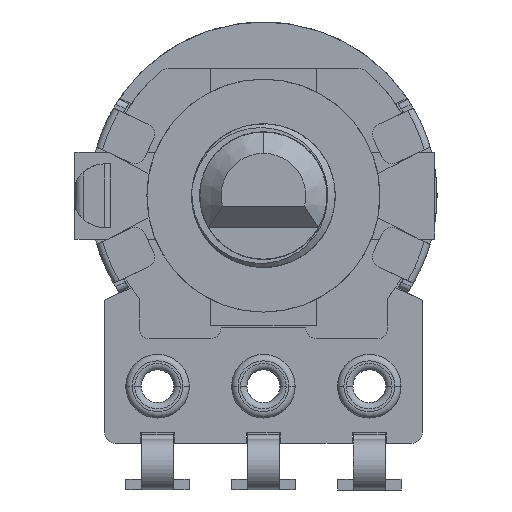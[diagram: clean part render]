
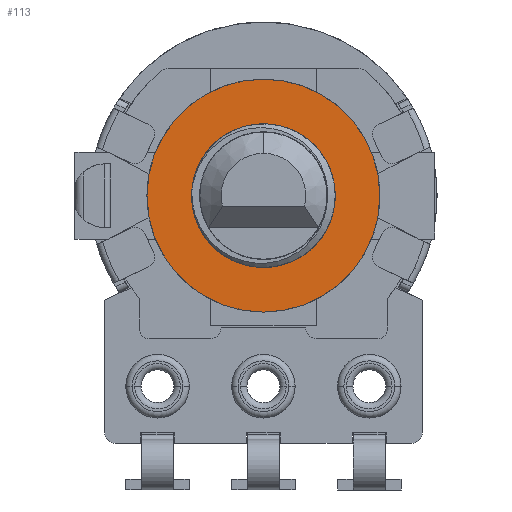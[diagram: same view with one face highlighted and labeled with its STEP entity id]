
A CAD part, front view. The second image highlights one B-rep face of the part: STEP entity #113.
In plain terms, the highlighted planar face has unit normal (0, -1, 0) as drawn and (0, 0, 1) by its records, which use the part's own axes.
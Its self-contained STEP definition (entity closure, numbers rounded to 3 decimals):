
#113 = ADVANCED_FACE ( 'NONE', ( #3345, #3351 ), #3911, .F. ) ;
#678 = ORIENTED_EDGE ( 'NONE', *, *, #1265, .F. ) ;
#679 = ORIENTED_EDGE ( 'NONE', *, *, #1377, .F. ) ;
#680 = ORIENTED_EDGE ( 'NONE', *, *, #9658, .F. ) ;
#681 = ORIENTED_EDGE ( 'NONE', *, *, #1055, .T. ) ;
#682 = ORIENTED_EDGE ( 'NONE', *, *, #9670, .F. ) ;
#1055 = EDGE_CURVE ( 'NONE', #16083, #16084, #9998, .T. ) ;
#1265 = EDGE_CURVE ( 'NONE', #15984, #15985, #10292, .T. ) ;
#1377 = EDGE_CURVE ( 'NONE', #15985, #15984, #10496, .T. ) ;
#1950 = AXIS2_PLACEMENT_3D ( 'NONE', #3910, #3919, #3920 ) ;
#2442 = EDGE_LOOP ( 'NONE', ( #678, #679 ) ) ;
#2444 = EDGE_LOOP ( 'NONE', ( #680, #681, #682 ) ) ;
#3345 = FACE_OUTER_BOUND ( 'NONE', #2442, .T. ) ;
#3351 = FACE_BOUND ( 'NONE', #2444, .T. ) ;
#3910 = CARTESIAN_POINT ( 'NONE',  ( 0., 0., 4. ) ) ;
#3911 = PLANE ( 'NONE',  #1950 ) ;
#3919 = DIRECTION ( 'NONE',  ( 0., 0., -1. ) ) ;
#3920 = DIRECTION ( 'NONE',  ( 0., -1., 0. ) ) ;
#6990 = AXIS2_PLACEMENT_3D ( 'NONE', #9010, #9011, #9012 ) ;
#7077 = AXIS2_PLACEMENT_3D ( 'NONE', #9624, #9626, #9627 ) ;
#7112 = AXIS2_PLACEMENT_3D ( 'NONE', #11068, #11070, #11071 ) ;
#9010 = CARTESIAN_POINT ( 'NONE',  ( 0., 0., 4. ) ) ;
#9011 = DIRECTION ( 'NONE',  ( 0., 0., -1. ) ) ;
#9012 = DIRECTION ( 'NONE',  ( 0., -1., 0. ) ) ;
#9624 = CARTESIAN_POINT ( 'NONE',  ( 0., 0., 4. ) ) ;
#9626 = DIRECTION ( 'NONE',  ( 0., 0., -1. ) ) ;
#9627 = DIRECTION ( 'NONE',  ( 0., -1., 0. ) ) ;
#9658 = EDGE_CURVE ( 'NONE', #16083, #15759, #14541, .T. ) ;
#9670 = EDGE_CURVE ( 'NONE', #15759, #16084, #14542, .T. ) ;
#9998 = CIRCLE ( 'NONE', #6990, 3.02 ) ;
#10292 = CIRCLE ( 'NONE', #7077, 5.5 ) ;
#10496 = CIRCLE ( 'NONE', #7112, 5.5 ) ;
#11068 = CARTESIAN_POINT ( 'NONE',  ( 0., 0., 4. ) ) ;
#11070 = DIRECTION ( 'NONE',  ( 0., 0., -1. ) ) ;
#11071 = DIRECTION ( 'NONE',  ( 0., -1., 0. ) ) ;
#11685 = CARTESIAN_POINT ( 'NONE',  ( -0.272, 3.008, 4. ) ) ;
#11689 = CARTESIAN_POINT ( 'NONE',  ( -0.481, 2.997, 4. ) ) ;
#11690 = CARTESIAN_POINT ( 'NONE',  ( -0.684, 2.965, 4. ) ) ;
#11691 = CARTESIAN_POINT ( 'NONE',  ( -1.083, 2.861, 4. ) ) ;
#11692 = CARTESIAN_POINT ( 'NONE',  ( -1.28, 2.788, 4. ) ) ;
#11693 = CARTESIAN_POINT ( 'NONE',  ( -1.652, 2.605, 4. ) ) ;
#11694 = CARTESIAN_POINT ( 'NONE',  ( -1.827, 2.496, 4. ) ) ;
#11695 = CARTESIAN_POINT ( 'NONE',  ( -2.154, 2.243, 4. ) ) ;
#11696 = CARTESIAN_POINT ( 'NONE',  ( -2.306, 2.098, 4. ) ) ;
#11697 = CARTESIAN_POINT ( 'NONE',  ( -2.709, 1.629, 4. ) ) ;
#11698 = CARTESIAN_POINT ( 'NONE',  ( -2.915, 1.258, 4. ) ) ;
#11699 = CARTESIAN_POINT ( 'NONE',  ( -3.107, 0.669, 4. ) ) ;
#11700 = CARTESIAN_POINT ( 'NONE',  ( -3.152, 0.464, 4. ) ) ;
#11701 = CARTESIAN_POINT ( 'NONE',  ( -3.202, 0.053, 4. ) ) ;
#11702 = CARTESIAN_POINT ( 'NONE',  ( -3.206, -0.153, 4. ) ) ;
#11703 = CARTESIAN_POINT ( 'NONE',  ( -3.176, -0.565, 4. ) ) ;
#11704 = CARTESIAN_POINT ( 'NONE',  ( -3.14, -0.772, 4. ) ) ;
#11705 = CARTESIAN_POINT ( 'NONE',  ( -3.031, -1.17, 4. ) ) ;
#11706 = CARTESIAN_POINT ( 'NONE',  ( -2.958, -1.362, 4. ) ) ;
#11707 = CARTESIAN_POINT ( 'NONE',  ( -2.68, -1.921, 4. ) ) ;
#11708 = CARTESIAN_POINT ( 'NONE',  ( -2.427, -2.254, 4. ) ) ;
#11709 = CARTESIAN_POINT ( 'NONE',  ( -1.963, -2.672, 4. ) ) ;
#11710 = CARTESIAN_POINT ( 'NONE',  ( -1.797, -2.795, 4. ) ) ;
#11711 = CARTESIAN_POINT ( 'NONE',  ( -1.445, -3.009, 4. ) ) ;
#11712 = CARTESIAN_POINT ( 'NONE',  ( -1.257, -3.101, 4. ) ) ;
#11713 = CARTESIAN_POINT ( 'NONE',  ( -0.869, -3.247, 4. ) ) ;
#11714 = CARTESIAN_POINT ( 'NONE',  ( -0.67, -3.301, 4. ) ) ;
#11715 = CARTESIAN_POINT ( 'NONE',  ( -0.263, -3.373, 4. ) ) ;
#11716 = CARTESIAN_POINT ( 'NONE',  ( -0.054, -3.389, 4. ) ) ;
#11717 = CARTESIAN_POINT ( 'NONE',  ( 0.155, -3.386, 4. ) ) ;
#11739 = CARTESIAN_POINT ( 'NONE',  ( 0.155, -3.386, 4. ) ) ;
#11742 = CARTESIAN_POINT ( 'NONE',  ( 0.363, -3.37, 4. ) ) ;
#11743 = CARTESIAN_POINT ( 'NONE',  ( 0.566, -3.335, 4. ) ) ;
#11744 = CARTESIAN_POINT ( 'NONE',  ( 0.964, -3.227, 4. ) ) ;
#11745 = CARTESIAN_POINT ( 'NONE',  ( 1.16, -3.154, 4. ) ) ;
#11746 = CARTESIAN_POINT ( 'NONE',  ( 1.534, -2.973, 4. ) ) ;
#11747 = CARTESIAN_POINT ( 'NONE',  ( 1.71, -2.866, 4. ) ) ;
#11748 = CARTESIAN_POINT ( 'NONE',  ( 2.041, -2.62, 4. ) ) ;
#11749 = CARTESIAN_POINT ( 'NONE',  ( 2.198, -2.48, 4. ) ) ;
#11750 = CARTESIAN_POINT ( 'NONE',  ( 2.479, -2.176, 4. ) ) ;
#11751 = CARTESIAN_POINT ( 'NONE',  ( 2.604, -2.013, 4. ) ) ;
#11752 = CARTESIAN_POINT ( 'NONE',  ( 2.824, -1.663, 4. ) ) ;
#11753 = CARTESIAN_POINT ( 'NONE',  ( 2.919, -1.475, 4. ) ) ;
#11754 = CARTESIAN_POINT ( 'NONE',  ( 3.068, -1.09, 4. ) ) ;
#11755 = CARTESIAN_POINT ( 'NONE',  ( 3.124, -0.892, 4. ) ) ;
#11756 = CARTESIAN_POINT ( 'NONE',  ( 3.197, -0.484, 4. ) ) ;
#11757 = CARTESIAN_POINT ( 'NONE',  ( 3.213, -0.275, 4. ) ) ;
#11758 = CARTESIAN_POINT ( 'NONE',  ( 3.202, 0.343, 4. ) ) ;
#11759 = CARTESIAN_POINT ( 'NONE',  ( 3.113, 0.758, 4. ) ) ;
#11760 = CARTESIAN_POINT ( 'NONE',  ( 2.87, 1.326, 4. ) ) ;
#11761 = CARTESIAN_POINT ( 'NONE',  ( 2.769, 1.511, 4. ) ) ;
#11762 = CARTESIAN_POINT ( 'NONE',  ( 2.535, 1.853, 4. ) ) ;
#11763 = CARTESIAN_POINT ( 'NONE',  ( 2.403, 2.01, 4. ) ) ;
#11764 = CARTESIAN_POINT ( 'NONE',  ( 2.106, 2.297, 4. ) ) ;
#11765 = CARTESIAN_POINT ( 'NONE',  ( 1.941, 2.428, 4. ) ) ;
#11766 = CARTESIAN_POINT ( 'NONE',  ( 1.593, 2.65, 4. ) ) ;
#11767 = CARTESIAN_POINT ( 'NONE',  ( 1.409, 2.743, 4. ) ) ;
#11768 = CARTESIAN_POINT ( 'NONE',  ( 1.021, 2.892, 4. ) ) ;
#11769 = CARTESIAN_POINT ( 'NONE',  ( 0.82, 2.946, 4. ) ) ;
#11770 = CARTESIAN_POINT ( 'NONE',  ( 0.414, 3.014, 4. ) ) ;
#11771 = CARTESIAN_POINT ( 'NONE',  ( 0.209, 3.027, 4. ) ) ;
#11772 = CARTESIAN_POINT ( 'NONE',  ( 0., 3.02, 4. ) ) ;
#13800 = CARTESIAN_POINT ( 'NONE',  ( 0.155, -3.386, 4. ) ) ;
#14025 = CARTESIAN_POINT ( 'NONE',  ( 0., -5.5, 4. ) ) ;
#14026 = CARTESIAN_POINT ( 'NONE',  ( 0., 5.5, 4. ) ) ;
#14124 = CARTESIAN_POINT ( 'NONE',  ( -0.272, 3.008, 4. ) ) ;
#14125 = CARTESIAN_POINT ( 'NONE',  ( 0., 3.02, 4. ) ) ;
#14541 = B_SPLINE_CURVE_WITH_KNOTS ( 'NONE', 3,
 ( #11685, #11689, #11690, #11691, #11692, #11693, #11694, #11695, #11696, #11697, #11698, #11699, #11700, #11701, #11702, #11703, #11704, #11705, #11706, #11707, #11708, #11709, #11710, #11711, #11712, #11713, #11714, #11715, #11716, #11717 ),
 .UNSPECIFIED., .F., .F.,
 ( 4, 2, 2, 2, 2, 2, 2, 2, 2, 2, 2, 2, 2, 2, 4 ),
 ( 0., 0.001, 0.001, 0.002, 0.002, 0.004, 0.004, 0.005, 0.006, 0.006, 0.007, 0.008, 0.009, 0.009, 0.01 ),
 .UNSPECIFIED. ) ;
#14542 = B_SPLINE_CURVE_WITH_KNOTS ( 'NONE', 3,
 ( #11739, #11742, #11743, #11744, #11745, #11746, #11747, #11748, #11749, #11750, #11751, #11752, #11753, #11754, #11755, #11756, #11757, #11758, #11759, #11760, #11761, #11762, #11763, #11764, #11765, #11766, #11767, #11768, #11769, #11770, #11771, #11772 ),
 .UNSPECIFIED., .F., .F.,
 ( 4, 2, 2, 2, 2, 2, 2, 2, 2, 2, 2, 2, 2, 2, 2, 4 ),
 ( 0., 0.001, 0.001, 0.002, 0.002, 0.003, 0.004, 0.004, 0.005, 0.006, 0.007, 0.007, 0.008, 0.009, 0.009, 0.01 ),
 .UNSPECIFIED. ) ;
#15759 = VERTEX_POINT ( 'NONE', #13800 ) ;
#15984 = VERTEX_POINT ( 'NONE', #14025 ) ;
#15985 = VERTEX_POINT ( 'NONE', #14026 ) ;
#16083 = VERTEX_POINT ( 'NONE', #14124 ) ;
#16084 = VERTEX_POINT ( 'NONE', #14125 ) ;
